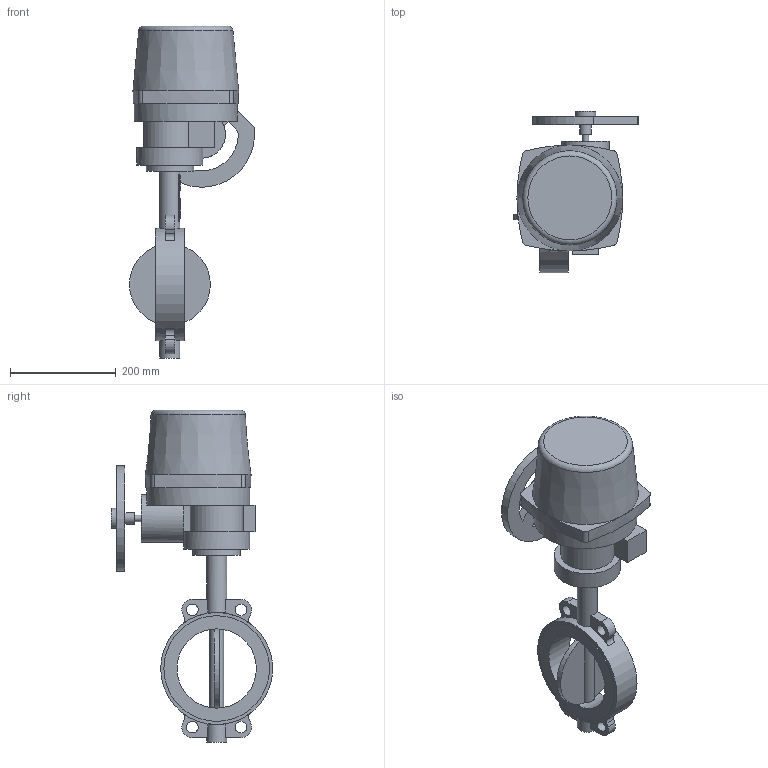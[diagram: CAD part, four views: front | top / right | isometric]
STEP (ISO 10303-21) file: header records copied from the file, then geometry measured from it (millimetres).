
FILE_DESCRIPTION(('STEP AP203'), '1');
FILE_NAME('青蜮铕 017WDN150+菹 QT20-1', '', ('UNSPECIFIED'), ('UNSPECIFIED'), 'ASCON STEP Converter 1.6', 'ASCON Math Kernel', '');
FILE_SCHEMA(('CONFIG_CONTROL_DESIGN'));
Length unit declared in the file: millimetre
Bounding box: 236.45 x 305.5 x 628 mm (x, y, z)
Volume: 7170702.6 mm3; surface area: 497084 mm2
Topology: 1 solids, 2 shells, 690 faces, 2002 edges, 1286 vertices
Faces by surface type: cylinder 480, plane 208, cone 1, torus 1
Full cylindrical faces by diameter (mm): 8 x4, 10 x4, 12 x1, 18.9 x1, 22 x5, 38 x3, 55 x1, 90 x2, 125 x1, 150 x1, 195 x1, 200 x2, 212 x1
Entity records: 29338 total; most frequent: CARTESIAN_POINT 4726, DIRECTION 4369, ORIENTED_EDGE 3881, EDGE_CURVE 1972, AXIS2_PLACEMENT_3D 1725, VERTEX_POINT 1285, CIRCLE 1035, LINE 919
